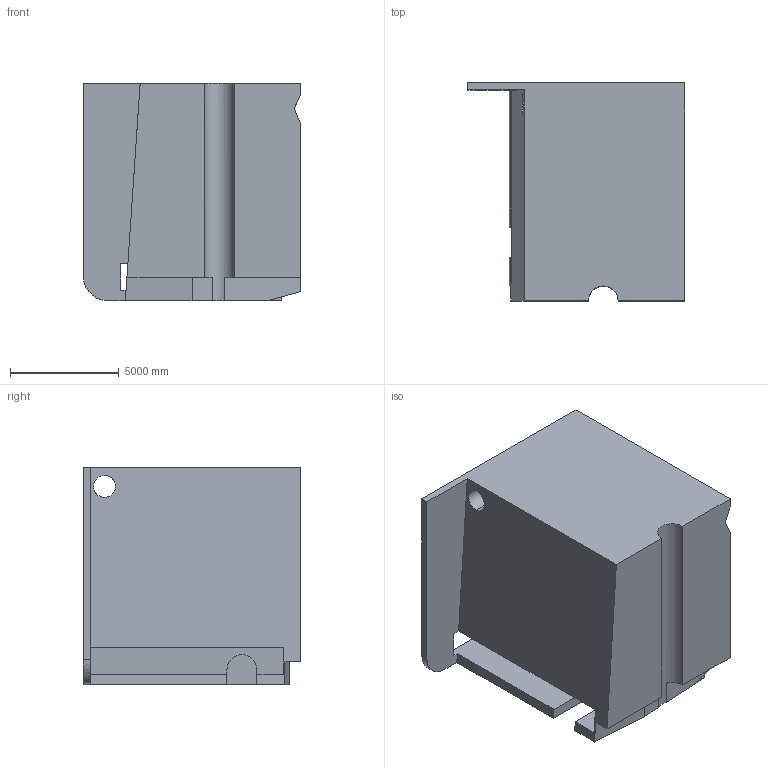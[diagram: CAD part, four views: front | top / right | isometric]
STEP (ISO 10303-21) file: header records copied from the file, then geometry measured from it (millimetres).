
FILE_DESCRIPTION (( 'STEP AP203' ), '1' );
FILE_NAME ('99.STEP', '2022-09-02T14:16:00', ( 'user' ), ( '' ), 'SwSTEP 2.0', 'SolidWorks 2021', '' );
FILE_SCHEMA (( 'CONFIG_CONTROL_DESIGN' ));
Length unit declared in the file: centimetre
Products named in the file (1): 99
Bounding box: 10000 x 10000 x 10000 mm (x, y, z)
Volume: 728756351463.5 mm3; surface area: 614274594.4 mm2
Topology: 1 solids, 1 shells, 36 faces, 108 edges, 72 vertices
Faces by surface type: plane 30, cylinder 6
Entity records: 1289 total; most frequent: CARTESIAN_POINT 235, ORIENTED_EDGE 216, DIRECTION 188, EDGE_CURVE 108, LINE 90, VECTOR 90, VERTEX_POINT 72, AXIS2_PLACEMENT_3D 49
